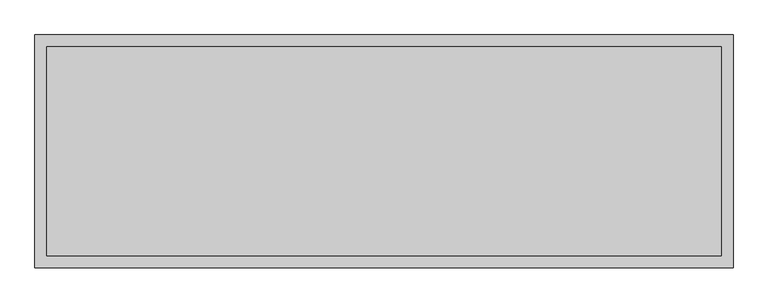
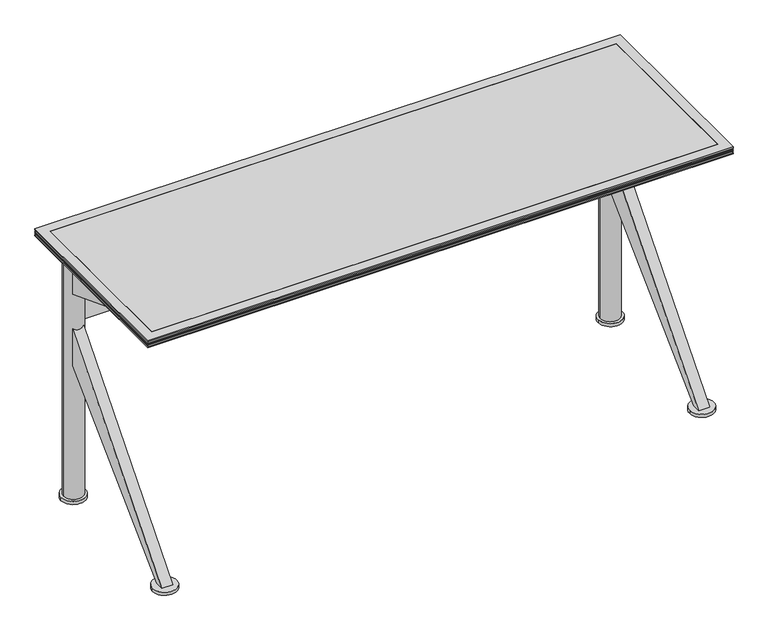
"""IFC4 building model written with IfcOpenShell, lengths in millimetres: furniture geometry, Coalesse_AM_Table_Conference_Ballet_Rectangular_KBase : Folding - 60L x 20W."""

from ifc_helpers import new_model, si_unit, point, frame, frame_2d, origin, origin_with_axes, place, context, project, spatial, polyline, circle_curve, trimmed, segment, composite_curve, outline, extrude, faceted_brep, source, transform, mapped, element, save
from ifc_brep_helpers import plane_surface, cylinder_surface, advanced_brep


def furniture_6fb40dd8(model_context):
    return source(origin(), model_context, "Body", "SolidModel", [
        extrude(outline(composite_curve([segment(trimmed(circle_curve(frame_2d((-699.4092495, -222.25)), 25.4), [point((-724.8092495, -222.25))], [point((-674.0092495, -222.25))], False, "CARTESIAN"), True, "CONTINUOUS"), segment(trimmed(circle_curve(frame_2d((-699.4092495, -222.25)), 25.4), [point((-674.0092495, -222.25))], [point((-724.8092495, -222.25))], False, "CARTESIAN"), True, "CONTINUOUS")], self_intersect=False)), origin_with_axes(), (0.0, 0.0, 1.0), 4.2936144),
        extrude(outline(composite_curve([segment(trimmed(circle_curve(frame_2d((698.6624629, -222.25)), 25.4), [point((673.2624629, -222.25))], [point((724.0624629, -222.25))], False, "CARTESIAN"), True, "CONTINUOUS"), segment(trimmed(circle_curve(frame_2d((698.6624629, -222.25)), 25.4), [point((724.0624629, -222.25))], [point((673.2624629, -222.25))], False, "CARTESIAN"), True, "CONTINUOUS")], self_intersect=False)), origin_with_axes(), (0.0, 0.0, 1.0), 4.2936144),
        extrude(outline(composite_curve([segment(trimmed(circle_curve(frame_2d((698.6154995, 189.815286)), 25.4), [point((724.0154995, 189.815286))], [point((673.2154995, 189.815286))], False, "CARTESIAN"), True, "CONTINUOUS"), segment(trimmed(circle_curve(frame_2d((698.6154995, 189.815286)), 25.4), [point((673.2154995, 189.815286))], [point((724.0154995, 189.815286))], False, "CARTESIAN"), True, "CONTINUOUS")], self_intersect=False)), origin_with_axes(), (0.0, 0.0, 1.0), 4.2936144),
        extrude(outline(composite_curve([segment(trimmed(circle_curve(frame_2d((-699.4562129, 189.815286)), 25.4), [point((-674.0562129, 189.815286))], [point((-724.8562129, 189.815286))], False, "CARTESIAN"), True, "CONTINUOUS"), segment(trimmed(circle_curve(frame_2d((-699.4562129, 189.815286)), 25.4), [point((-724.8562129, 189.815286))], [point((-674.0562129, 189.815286))], False, "CARTESIAN"), True, "CONTINUOUS")], self_intersect=False)), origin_with_axes(), (0.0, 0.0, 1.0), 4.2936144),
        extrude(outline(composite_curve([segment(trimmed(circle_curve(frame_2d((698.6154995, 189.815286)), 31.75), [point((730.3654995, 189.815286))], [point((666.8654995, 189.815286))], False, "CARTESIAN"), True, "CONTINUOUS"), segment(trimmed(circle_curve(frame_2d((698.6154995, 189.815286)), 31.75), [point((666.8654995, 189.815286))], [point((730.3654995, 189.815286))], False, "CARTESIAN"), True, "CONTINUOUS")], self_intersect=False)), frame((0.0, 0.0, 4.2936144), z_axis=(0.0, 0.0, 1.0), x_axis=(1.0, 0.0, 0.0)), (0.0, 0.0, 1.0), 8.4063856),
        extrude(outline(composite_curve([segment(trimmed(circle_curve(frame_2d((-699.4562129, 189.815286)), 31.75), [point((-667.7062129, 189.815286))], [point((-731.2062129, 189.815286))], False, "CARTESIAN"), True, "CONTINUOUS"), segment(trimmed(circle_curve(frame_2d((-699.4562129, 189.815286)), 31.75), [point((-731.2062129, 189.815286))], [point((-667.7062129, 189.815286))], False, "CARTESIAN"), True, "CONTINUOUS")], self_intersect=False)), frame((0.0, 0.0, 4.2936144), z_axis=(0.0, 0.0, 1.0), x_axis=(1.0, 0.0, 0.0)), (0.0, 0.0, 1.0), 8.4063856),
        extrude(outline(polyline([(169.4656271, 577.7388634), (-142.874901, 698.5000242), (-111.124901, 698.5000242), (169.4656271, 641.3500242), (169.4656271, 577.7388634)])), frame((-712.8007845, 0.0, 0.0), z_axis=(1.0, 0.0, 0.0), x_axis=(0.0, 1.0, 0.0)), (0.0, 0.0, 1.0), 28.5877899),
        extrude(outline(polyline([(169.4656271, 381.0), (-211.1375951, 12.7), (-233.3624013, 12.7), (169.4656271, 482.7111245), (169.4656271, 381.0)])), frame((-712.8007845, 0.0, 0.0), z_axis=(1.0, 0.0, 0.0), x_axis=(0.0, 1.0, 0.0)), (0.0, 0.0, 1.0), 28.5877899),
        extrude(outline(polyline([(169.4656271, 577.7388634), (-142.874901, 698.5000242), (-111.124901, 698.5000242), (169.4656271, 641.3500242), (169.4656271, 577.7388634)])), frame((684.2121992, 0.0, 0.0), z_axis=(1.0, 0.0, 0.0), x_axis=(0.0, 1.0, 0.0)), (0.0, 0.0, 1.0), 28.575),
        extrude(outline(polyline([(169.4656271, 381.0), (-211.1375951, 12.7), (-233.3624013, 12.7), (169.4656271, 482.7111245), (169.4656271, 381.0)])), frame((684.2121992, 0.0, 0.0), z_axis=(1.0, 0.0, 0.0), x_axis=(0.0, 1.0, 0.0)), (0.0, 0.0, 1.0), 28.575),
        advanced_brep(
        [(676.5033169, 177.8000021, 568.3250121), (-676.5033169, 177.8000021, 568.3250121), (-676.5033169, 177.8000021, 492.1250121), (676.5033169, 177.8000021, 492.1250121), (-673.1003634, 190.5, 492.1250121), (-676.5032635, 203.1999052, 492.1250121), (676.5032635, 203.1999052, 492.1250121), (673.1003634, 190.5, 492.1250121), (-676.5032635, 203.1999052, 568.3250121), (676.5032635, 203.1999052, 568.3250121), (673.1003634, 190.5, 568.3250121), (-673.1003634, 190.5, 568.3250121), (-723.9003633, 190.5, 698.5000242), (-673.1003634, 190.5, 698.5000242), (673.1003634, 190.5, 698.5000242), (723.9003633, 190.5, 698.5000242), (-723.9003633, 190.5, 12.7), (-673.1003634, 190.5, 12.7), (673.1003634, 190.5, 12.7), (723.9003633, 190.5, 12.7)],
        [
            (0, 1),
            (1, 2),
            (2, 3),
            (3, 0),
            (2, 4, circle_curve(frame((-698.5003633, 190.5, 492.1250121), z_axis=(0.0, 0.0, 1.0), x_axis=(1.0, 0.0, 0.0)), 25.3999999)),
            (4, 5, circle_curve(frame((-698.5003633, 190.5, 492.1250121), z_axis=(0.0, 0.0, 1.0), x_axis=(1.0, 0.0, 0.0)), 25.3999999)),
            (5, 6),
            (6, 7, circle_curve(frame((698.5003633, 190.5, 492.1250121), z_axis=(0.0, 0.0, 1.0), x_axis=(1.0, 0.0, 0.0)), 25.3999999)),
            (7, 3, circle_curve(frame((698.5003633, 190.5, 492.1250121), z_axis=(0.0, 0.0, 1.0), x_axis=(1.0, 0.0, 0.0)), 25.3999999)),
            (5, 8),
            (8, 9),
            (9, 6),
            (0, 10, circle_curve(frame((698.5003633, 190.5, 568.3250121), z_axis=(0.0, 0.0, -1.0), x_axis=(1.0, 0.0, 0.0)), 25.3999999)),
            (10, 9, circle_curve(frame((698.5003633, 190.5, 568.3250121), z_axis=(0.0, 0.0, -1.0), x_axis=(1.0, 0.0, 0.0)), 25.3999999)),
            (8, 11, circle_curve(frame((-698.5003633, 190.5, 568.3250121), z_axis=(0.0, 0.0, -1.0), x_axis=(1.0, 0.0, 0.0)), 25.3999999)),
            (11, 1, circle_curve(frame((-698.5003633, 190.5, 568.3250121), z_axis=(0.0, 0.0, -1.0), x_axis=(1.0, 0.0, 0.0)), 25.3999999)),
            (12, 13, circle_curve(frame((-698.5003633, 190.5, 698.5000242), z_axis=(0.0, 0.0, 1.0), x_axis=(1.0, 0.0, 0.0)), 25.3999999)),
            (13, 12, circle_curve(frame((-698.5003633, 190.5, 698.5000242), z_axis=(0.0, 0.0, 1.0), x_axis=(1.0, 0.0, 0.0)), 25.3999999)),
            (14, 15, circle_curve(frame((698.5003633, 190.5, 698.5000242), z_axis=(0.0, 0.0, 1.0), x_axis=(1.0, 0.0, 0.0)), 25.3999999)),
            (15, 14, circle_curve(frame((698.5003633, 190.5, 698.5000242), z_axis=(0.0, 0.0, 1.0), x_axis=(1.0, 0.0, 0.0)), 25.3999999)),
            (16, 17, circle_curve(frame((-698.5003633, 190.5, 12.7), z_axis=(0.0, 0.0, -1.0), x_axis=(1.0, 0.0, 0.0)), 25.3999999)),
            (17, 16, circle_curve(frame((-698.5003633, 190.5, 12.7), z_axis=(0.0, 0.0, -1.0), x_axis=(1.0, 0.0, 0.0)), 25.3999999)),
            (18, 19, circle_curve(frame((698.5003633, 190.5, 12.7), z_axis=(0.0, 0.0, -1.0), x_axis=(1.0, 0.0, 0.0)), 25.3999999)),
            (19, 18, circle_curve(frame((698.5003633, 190.5, 12.7), z_axis=(0.0, 0.0, -1.0), x_axis=(1.0, 0.0, 0.0)), 25.3999999)),
            (12, 16),
            (17, 4),
            (11, 13),
            (14, 10),
            (7, 18),
            (19, 15),
        ],
        [
            plane_surface(frame((684.2121992, 177.8000021, 568.3250121), z_axis=(0.0, -1.0, 0.0), x_axis=(-1.0, 0.0, 0.0))),
            plane_surface(frame((684.2121992, 177.8000021, 492.1250121), z_axis=(0.0, 0.0, -1.0), x_axis=(-1.0, 0.0, 0.0))),
            plane_surface(frame((684.2121992, 203.1999052, 492.1250121), z_axis=(0.0, 1.0, 0.0), x_axis=(-1.0, 0.0, 0.0))),
            plane_surface(frame((684.2121992, 203.1999052, 568.3250121), z_axis=(0.0, 0.0, 1.0), x_axis=(-1.0, 0.0, 0.0))),
            plane_surface(frame((-673.1003634, 190.5, 698.5000242), z_axis=(0.0, 0.0, 1.0), x_axis=(0.0, 1.0, 0.0))),
            plane_surface(frame((-673.1003634, 190.5, 12.7), z_axis=(0.0, 0.0, -1.0), x_axis=(0.0, -1.0, 0.0))),
            cylinder_surface(frame((-698.5003633, 190.5, 12.7), z_axis=(0.0, 0.0, 1.0), x_axis=(1.0, 0.0, 0.0)), 25.3999999),
            cylinder_surface(frame((698.5003633, 190.5, 0.0), z_axis=(0.0, 0.0, 1.0), x_axis=(1.0, 0.0, 0.0)), 25.3999999),
        ],
        [
            (0, [[1, 2, 3, 4]]),
            (1, [[-3, 5, 6, 7, 8, 9]]),
            (2, [[-7, 10, 11, 12]]),
            (3, [[-1, 13, 14, -11, 15, 16]]),
            (4, [[17, 18]]),
            (4, [[19, 20]]),
            (5, [[21, 22]]),
            (5, [[23, 24]]),
            (6, [[-17, 25, -22, 26, -5, -2, -16, 27]]),
            (6, [[-18, -27, -15, -10, -6, -26, -21, -25]]),
            (7, [[-19, 28, -13, -4, -9, 29, -24, 30]]),
            (7, [[-20, -30, -23, -29, -8, -12, -14, -28]]),
        ],
    ),
        extrude(outline(composite_curve([segment(trimmed(circle_curve(frame_2d((-699.4092495, -222.25)), 31.75), [point((-731.1592495, -222.25))], [point((-667.6592495, -222.25))], False, "CARTESIAN"), True, "CONTINUOUS"), segment(trimmed(circle_curve(frame_2d((-699.4092495, -222.25)), 31.75), [point((-667.6592495, -222.25))], [point((-731.1592495, -222.25))], False, "CARTESIAN"), True, "CONTINUOUS")], self_intersect=False)), frame((0.0, 0.0, 4.2936144), z_axis=(0.0, 0.0, 1.0), x_axis=(1.0, 0.0, 0.0)), (0.0, 0.0, 1.0), 8.4063856),
        extrude(outline(composite_curve([segment(trimmed(circle_curve(frame_2d((698.6624629, -222.25)), 31.75), [point((666.9124629, -222.25))], [point((730.4124629, -222.25))], False, "CARTESIAN"), True, "CONTINUOUS"), segment(trimmed(circle_curve(frame_2d((698.6624629, -222.25)), 31.75), [point((730.4124629, -222.25))], [point((666.9124629, -222.25))], False, "CARTESIAN"), True, "CONTINUOUS")], self_intersect=False)), frame((0.0, 0.0, 4.2936144), z_axis=(0.0, 0.0, 1.0), x_axis=(1.0, 0.0, 0.0)), (0.0, 0.0, 1.0), 8.4063856),
        faceted_brep([(-762.0003633, 254.0, 704.85), (-736.6003876, 228.6000242, 698.5000242), (-736.6003876, -228.5999516, 698.5000242), (-762.0003633, -253.9999273, 704.85), (-762.0003633, 254.0, 708.0250242), (-762.0003633, -253.9999273, 708.0250242), (-758.8253755, 250.8250121, 709.6125), (-758.8253755, -250.8249394, 709.6125), (-762.0003633, 254.0, 711.1999758), (-762.0003633, -253.9999273, 711.1999758), (-758.8253755, 250.8250121, 712.7875242), (-758.8253755, -250.8249394, 712.7875242), (-762.0003633, 254.0, 714.375), (-762.0003633, -253.9999273, 714.375), (-758.8253755, 250.8250121, 715.9624758), (-758.8253755, -250.8249394, 715.9624758), (-762.0003633, 254.0, 717.5500242), (-762.0003633, -253.9999273, 717.5500242), (-758.8253755, 250.8250121, 719.1375), (-758.8253755, -250.8249394, 719.1375), (-762.0003633, 254.0, 720.7249758), (-762.0003633, -253.9999273, 720.7249758), (-762.0003633, 254.0, 723.9), (-762.0003633, -253.9999273, 723.9), (-736.6003876, 228.6000242, 723.9), (-736.6003876, -228.5999516, 723.9), (736.5998062, -228.5999516, 698.5000242), (761.999782, -253.9999273, 704.85), (761.999782, -253.9999273, 708.0250242), (758.8247941, -250.8249394, 709.6125), (761.999782, -253.9999273, 711.1999758), (758.8247941, -250.8249394, 712.7875242), (761.999782, -253.9999273, 714.375), (758.8247941, -250.8249394, 715.9624758), (761.999782, -253.9999273, 717.5500242), (758.8247941, -250.8249394, 719.1375), (761.999782, -253.9999273, 720.7249758), (761.999782, -253.9999273, 723.9), (736.5998062, -228.5999516, 723.9), (736.5998062, 228.6000242, 698.5000242), (761.999782, 254.0, 704.85), (761.999782, 254.0, 708.0250242), (758.8247941, 250.8250121, 709.6125), (761.999782, 254.0, 711.1999758), (758.8247941, 250.8250121, 712.7875242), (761.999782, 254.0, 714.375), (758.8247941, 250.8250121, 715.9624758), (761.999782, 254.0, 717.5500242), (758.8247941, 250.8250121, 719.1375), (761.999782, 254.0, 720.7249758), (761.999782, 254.0, 723.9), (736.5998062, 228.6000242, 723.9)], [[[0, 1, 2, 3]], [[4, 0, 3, 5]], [[6, 4, 5, 7]], [[8, 6, 7, 9]], [[10, 8, 9, 11]], [[12, 10, 11, 13]], [[14, 12, 13, 15]], [[16, 14, 15, 17]], [[18, 16, 17, 19]], [[20, 18, 19, 21]], [[22, 20, 21, 23]], [[1, 24, 25, 2]], [[3, 2, 26, 27]], [[5, 3, 27, 28]], [[7, 5, 28, 29]], [[9, 7, 29, 30]], [[11, 9, 30, 31]], [[13, 11, 31, 32]], [[15, 13, 32, 33]], [[17, 15, 33, 34]], [[19, 17, 34, 35]], [[21, 19, 35, 36]], [[23, 21, 36, 37]], [[2, 25, 38, 26]], [[27, 26, 39, 40]], [[28, 27, 40, 41]], [[29, 28, 41, 42]], [[30, 29, 42, 43]], [[31, 30, 43, 44]], [[32, 31, 44, 45]], [[33, 32, 45, 46]], [[34, 33, 46, 47]], [[35, 34, 47, 48]], [[36, 35, 48, 49]], [[37, 36, 49, 50]], [[26, 38, 51, 39]], [[40, 39, 1, 0]], [[41, 40, 0, 4]], [[42, 41, 4, 6]], [[43, 42, 6, 8]], [[44, 43, 8, 10]], [[45, 44, 10, 12]], [[46, 45, 12, 14]], [[47, 46, 14, 16]], [[48, 47, 16, 18]], [[49, 48, 18, 20]], [[50, 49, 20, 22]], [[23, 37, 50, 22], [24, 51, 38, 25]], [[39, 51, 24, 1]]]),
        extrude(outline(polyline([(736.5998062, 228.6000242), (736.5998062, -228.5999516), (-736.6003876, -228.5999516), (-736.6003876, 228.6000242), (736.5998062, 228.6000242)])), frame((0.0, 0.0, 704.85), z_axis=(0.0, 0.0, 1.0), x_axis=(1.0, 0.0, 0.0)), (0.0, 0.0, 1.0), 19.05),
    ])


if __name__ == "__main__":
    model = new_model("IFC4")
    model_context = context("Model", 3, world=origin())
    ifc_project = project(units=[si_unit("LENGTHUNIT", "METRE", prefix="MILLI")], contexts=[model_context])
    site = spatial("IfcSite", under=ifc_project)
    building = spatial("IfcBuilding", under=site)
    placement = place(None, origin())
    furniture_shape = furniture_6fb40dd8(model_context)
    element("IfcFurniture", 1, ObjectType="Coalesse_AM_Table_Conference_Ballet_Rectangular_KBase : Folding - 60L x 20W", at=placement, inside=building, context=model_context, shape_type="MappedRepresentation", body=[
        mapped(furniture_shape, transform((0.0, 0.0, 0.0), x_axis=(1.0, 0.0, 0.0), y_axis=(0.0, 1.0, 0.0), z_axis=(0.0, 0.0, 1.0))),
    ])
    save(model, "model.ifc")
